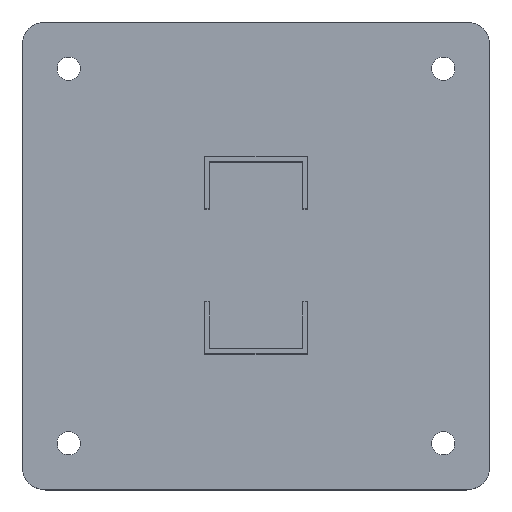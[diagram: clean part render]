
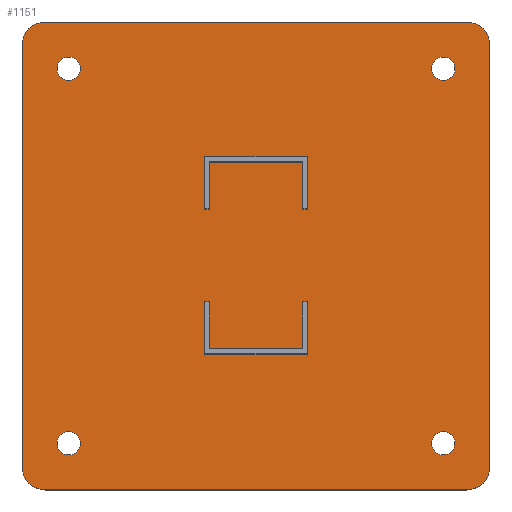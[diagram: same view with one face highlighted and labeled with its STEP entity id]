
A CAD part, top view. The second image highlights one B-rep face of the part: STEP entity #1151.
In plain terms, the highlighted planar face has unit normal (0, 0, 1).
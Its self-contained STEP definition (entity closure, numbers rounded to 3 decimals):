
#279=CARTESIAN_POINT('',(-14.244,59.231,4.0));
#280=VERTEX_POINT('',#279);
#287=CARTESIAN_POINT('',(25.756,59.231,4.0));
#288=VERTEX_POINT('',#287);
#289=CARTESIAN_POINT('',(25.756,59.231,4.0));
#290=DIRECTION('',(-1.0,0.0,0.0));
#291=VECTOR('',#290,40.0);
#292=LINE('',#289,#291);
#293=EDGE_CURVE('',#288,#280,#292,.T.);
#323=CARTESIAN_POINT('',(-14.244,39.231,4.0));
#324=VERTEX_POINT('',#323);
#331=CARTESIAN_POINT('',(-14.244,59.231,4.0));
#332=DIRECTION('',(0.0,-1.0,0.0));
#333=VECTOR('',#332,20.0);
#334=LINE('',#331,#333);
#335=EDGE_CURVE('',#280,#324,#334,.T.);
#354=CARTESIAN_POINT('',(-16.244,39.231,4.0));
#355=VERTEX_POINT('',#354);
#362=CARTESIAN_POINT('',(-14.244,39.231,4.0));
#363=DIRECTION('',(-1.0,0.0,0.0));
#364=VECTOR('',#363,2.);
#365=LINE('',#362,#364);
#366=EDGE_CURVE('',#324,#355,#365,.T.);
#385=CARTESIAN_POINT('',(-16.244,61.231,4.0));
#386=VERTEX_POINT('',#385);
#393=CARTESIAN_POINT('',(-16.244,39.231,4.0));
#394=DIRECTION('',(0.0,1.0,0.0));
#395=VECTOR('',#394,22.0);
#396=LINE('',#393,#395);
#397=EDGE_CURVE('',#355,#386,#396,.T.);
#416=CARTESIAN_POINT('',(27.756,61.231,4.0));
#417=VERTEX_POINT('',#416);
#424=CARTESIAN_POINT('',(-16.244,61.231,4.0));
#425=DIRECTION('',(1.0,0.0,0.0));
#426=VECTOR('',#425,44.0);
#427=LINE('',#424,#426);
#428=EDGE_CURVE('',#386,#417,#427,.T.);
#453=CARTESIAN_POINT('',(27.756,39.231,4.0));
#454=VERTEX_POINT('',#453);
#461=CARTESIAN_POINT('',(27.756,61.231,4.0));
#462=DIRECTION('',(0.0,-1.0,0.0));
#463=VECTOR('',#462,22.);
#464=LINE('',#461,#463);
#465=EDGE_CURVE('',#417,#454,#464,.T.);
#484=CARTESIAN_POINT('',(25.756,39.231,4.0));
#485=VERTEX_POINT('',#484);
#492=CARTESIAN_POINT('',(27.756,39.231,4.0));
#493=DIRECTION('',(-1.0,0.0,0.0));
#494=VECTOR('',#493,2.);
#495=LINE('',#492,#494);
#496=EDGE_CURVE('',#454,#485,#495,.T.);
#514=CARTESIAN_POINT('',(25.756,39.231,4.0));
#515=DIRECTION('',(0.0,1.0,0.0));
#516=VECTOR('',#515,20.0);
#517=LINE('',#514,#516);
#518=EDGE_CURVE('',#485,#288,#517,.T.);
#555=CARTESIAN_POINT('',(25.756,-0.769,4.0));
#556=VERTEX_POINT('',#555);
#563=CARTESIAN_POINT('',(25.756,-20.769,4.0));
#564=VERTEX_POINT('',#563);
#565=CARTESIAN_POINT('',(25.756,-20.769,4.0));
#566=DIRECTION('',(0.0,1.0,0.0));
#567=VECTOR('',#566,20.0);
#568=LINE('',#565,#567);
#569=EDGE_CURVE('',#564,#556,#568,.T.);
#593=CARTESIAN_POINT('',(27.756,-0.769,4.0));
#594=VERTEX_POINT('',#593);
#601=CARTESIAN_POINT('',(25.756,-0.769,4.0));
#602=DIRECTION('',(1.0,0.0,0.0));
#603=VECTOR('',#602,2.);
#604=LINE('',#601,#603);
#605=EDGE_CURVE('',#556,#594,#604,.T.);
#624=CARTESIAN_POINT('',(27.756,-22.769,4.0));
#625=VERTEX_POINT('',#624);
#632=CARTESIAN_POINT('',(27.756,-0.769,4.0));
#633=DIRECTION('',(0.0,-1.0,0.0));
#634=VECTOR('',#633,22.);
#635=LINE('',#632,#634);
#636=EDGE_CURVE('',#594,#625,#635,.T.);
#655=CARTESIAN_POINT('',(-16.244,-22.769,4.0));
#656=VERTEX_POINT('',#655);
#663=CARTESIAN_POINT('',(27.756,-22.769,4.0));
#664=DIRECTION('',(-1.0,0.0,0.0));
#665=VECTOR('',#664,44.);
#666=LINE('',#663,#665);
#667=EDGE_CURVE('',#625,#656,#666,.T.);
#692=CARTESIAN_POINT('',(-16.244,-0.769,4.0));
#693=VERTEX_POINT('',#692);
#700=CARTESIAN_POINT('',(-16.244,-22.769,4.0));
#701=DIRECTION('',(0.0,1.0,0.0));
#702=VECTOR('',#701,22.);
#703=LINE('',#700,#702);
#704=EDGE_CURVE('',#656,#693,#703,.T.);
#723=CARTESIAN_POINT('',(-14.244,-0.769,4.0));
#724=VERTEX_POINT('',#723);
#731=CARTESIAN_POINT('',(-16.244,-0.769,4.0));
#732=DIRECTION('',(1.0,0.0,0.0));
#733=VECTOR('',#732,2.);
#734=LINE('',#731,#733);
#735=EDGE_CURVE('',#693,#724,#734,.T.);
#754=CARTESIAN_POINT('',(-14.244,-20.769,4.0));
#755=VERTEX_POINT('',#754);
#762=CARTESIAN_POINT('',(-14.244,-0.769,4.0));
#763=DIRECTION('',(0.0,-1.0,0.0));
#764=VECTOR('',#763,20.);
#765=LINE('',#762,#764);
#766=EDGE_CURVE('',#724,#755,#765,.T.);
#784=CARTESIAN_POINT('',(-14.244,-20.769,4.0));
#785=DIRECTION('',(1.0,0.0,0.0));
#786=VECTOR('',#785,40.0);
#787=LINE('',#784,#786);
#788=EDGE_CURVE('',#755,#564,#787,.T.);
#853=CARTESIAN_POINT('',(90.756,-60.769,4.0));
#854=VERTEX_POINT('',#853);
#855=CARTESIAN_POINT('',(85.756,-60.769,4.));
#856=DIRECTION('',(0.0,0.0,-1.0));
#857=DIRECTION('',(1.0,0.0,0.0));
#858=AXIS2_PLACEMENT_3D('',#855,#856,#857);
#859=CIRCLE('',#858,5.0);
#860=EDGE_CURVE('',#854,#854,#859,.T.);
#902=CARTESIAN_POINT('',(90.756,99.231,4.0));
#903=VERTEX_POINT('',#902);
#904=CARTESIAN_POINT('',(85.756,99.231,4.));
#905=DIRECTION('',(0.0,0.0,-1.0));
#906=DIRECTION('',(1.0,0.0,0.0));
#907=AXIS2_PLACEMENT_3D('',#904,#905,#906);
#908=CIRCLE('',#907,5.0);
#909=EDGE_CURVE('',#903,#903,#908,.T.);
#951=CARTESIAN_POINT('',(-69.244,99.231,4.0));
#952=VERTEX_POINT('',#951);
#953=CARTESIAN_POINT('',(-74.244,99.231,4.));
#954=DIRECTION('',(0.0,0.0,-1.0));
#955=DIRECTION('',(1.0,0.0,0.0));
#956=AXIS2_PLACEMENT_3D('',#953,#954,#955);
#957=CIRCLE('',#956,5.0);
#958=EDGE_CURVE('',#952,#952,#957,.T.);
#1000=CARTESIAN_POINT('',(-69.244,-60.769,4.0));
#1001=VERTEX_POINT('',#1000);
#1002=CARTESIAN_POINT('',(-74.244,-60.769,4.));
#1003=DIRECTION('',(0.0,0.0,-1.0));
#1004=DIRECTION('',(1.0,0.0,0.0));
#1005=AXIS2_PLACEMENT_3D('',#1002,#1003,#1004);
#1006=CIRCLE('',#1005,5.0);
#1007=EDGE_CURVE('',#1001,#1001,#1006,.T.);
#1017=CARTESIAN_POINT('',(95.756,119.231,4.0));
#1018=VERTEX_POINT('',#1017);
#1019=CARTESIAN_POINT('',(105.756,109.231,4.0));
#1020=VERTEX_POINT('',#1019);
#1021=CARTESIAN_POINT('',(95.756,109.231,4.0));
#1022=DIRECTION('',(0.0,0.0,-1.));
#1023=DIRECTION('',(0.707,0.707,0.0));
#1024=AXIS2_PLACEMENT_3D('',#1021,#1022,#1023);
#1025=CIRCLE('',#1024,10.);
#1026=EDGE_CURVE('',#1018,#1020,#1025,.T.);
#1054=CARTESIAN_POINT('',(5.756,19.231,4.0));
#1055=DIRECTION('',(0.0,0.0,1.0));
#1056=DIRECTION('',(1.0,0.0,0.0));
#1057=AXIS2_PLACEMENT_3D('',#1054,#1055,#1056);
#1058=PLANE('',#1057);
#1059=ORIENTED_EDGE('',*,*,#1026,.F.);
#1060=CARTESIAN_POINT('',(-84.244,119.231,4.0));
#1061=VERTEX_POINT('',#1060);
#1062=CARTESIAN_POINT('',(-84.244,119.231,4.0));
#1063=DIRECTION('',(1.0,0.0,0.0));
#1064=VECTOR('',#1063,180.);
#1065=LINE('',#1062,#1064);
#1066=EDGE_CURVE('',#1061,#1018,#1065,.T.);
#1067=ORIENTED_EDGE('',*,*,#1066,.F.);
#1068=CARTESIAN_POINT('',(-94.244,109.231,4.0));
#1069=VERTEX_POINT('',#1068);
#1070=CARTESIAN_POINT('',(-84.244,109.231,4.0));
#1071=DIRECTION('',(0.0,0.0,-1.));
#1072=DIRECTION('',(-0.707,0.707,0.0));
#1073=AXIS2_PLACEMENT_3D('',#1070,#1071,#1072);
#1074=CIRCLE('',#1073,10.);
#1075=EDGE_CURVE('',#1069,#1061,#1074,.T.);
#1076=ORIENTED_EDGE('',*,*,#1075,.F.);
#1077=CARTESIAN_POINT('',(-94.244,-70.769,4.0));
#1078=VERTEX_POINT('',#1077);
#1079=CARTESIAN_POINT('',(-94.244,-70.769,4.0));
#1080=DIRECTION('',(0.0,1.0,0.0));
#1081=VECTOR('',#1080,180.0);
#1082=LINE('',#1079,#1081);
#1083=EDGE_CURVE('',#1078,#1069,#1082,.T.);
#1084=ORIENTED_EDGE('',*,*,#1083,.F.);
#1085=CARTESIAN_POINT('',(-84.244,-80.769,4.0));
#1086=VERTEX_POINT('',#1085);
#1087=CARTESIAN_POINT('',(-84.244,-70.769,4.0));
#1088=DIRECTION('',(0.0,0.0,-1.));
#1089=DIRECTION('',(-0.707,-0.707,0.0));
#1090=AXIS2_PLACEMENT_3D('',#1087,#1088,#1089);
#1091=CIRCLE('',#1090,10.);
#1092=EDGE_CURVE('',#1086,#1078,#1091,.T.);
#1093=ORIENTED_EDGE('',*,*,#1092,.F.);
#1094=CARTESIAN_POINT('',(95.756,-80.769,4.0));
#1095=VERTEX_POINT('',#1094);
#1096=CARTESIAN_POINT('',(95.756,-80.769,4.0));
#1097=DIRECTION('',(-1.0,0.0,0.0));
#1098=VECTOR('',#1097,180.0);
#1099=LINE('',#1096,#1098);
#1100=EDGE_CURVE('',#1095,#1086,#1099,.T.);
#1101=ORIENTED_EDGE('',*,*,#1100,.F.);
#1102=CARTESIAN_POINT('',(105.756,-70.769,4.0));
#1103=VERTEX_POINT('',#1102);
#1104=CARTESIAN_POINT('',(95.756,-70.769,4.0));
#1105=DIRECTION('',(0.0,0.0,-1.0));
#1106=DIRECTION('',(0.707,-0.707,0.0));
#1107=AXIS2_PLACEMENT_3D('',#1104,#1105,#1106);
#1108=CIRCLE('',#1107,10.0);
#1109=EDGE_CURVE('',#1103,#1095,#1108,.T.);
#1110=ORIENTED_EDGE('',*,*,#1109,.F.);
#1111=CARTESIAN_POINT('',(105.756,109.231,4.0));
#1112=DIRECTION('',(0.0,-1.0,0.0));
#1113=VECTOR('',#1112,180.);
#1114=LINE('',#1111,#1113);
#1115=EDGE_CURVE('',#1020,#1103,#1114,.T.);
#1116=ORIENTED_EDGE('',*,*,#1115,.F.);
#1117=EDGE_LOOP('',(#1059,#1067,#1076,#1084,#1093,#1101,#1110,#1116));
#1118=FACE_OUTER_BOUND('',#1117,.T.);
#1119=ORIENTED_EDGE('',*,*,#293,.T.);
#1120=ORIENTED_EDGE('',*,*,#335,.T.);
#1121=ORIENTED_EDGE('',*,*,#366,.T.);
#1122=ORIENTED_EDGE('',*,*,#397,.T.);
#1123=ORIENTED_EDGE('',*,*,#428,.T.);
#1124=ORIENTED_EDGE('',*,*,#465,.T.);
#1125=ORIENTED_EDGE('',*,*,#496,.T.);
#1126=ORIENTED_EDGE('',*,*,#518,.T.);
#1127=EDGE_LOOP('',(#1119,#1120,#1121,#1122,#1123,#1124,#1125,#1126));
#1128=FACE_BOUND('',#1127,.T.);
#1129=ORIENTED_EDGE('',*,*,#569,.T.);
#1130=ORIENTED_EDGE('',*,*,#605,.T.);
#1131=ORIENTED_EDGE('',*,*,#636,.T.);
#1132=ORIENTED_EDGE('',*,*,#667,.T.);
#1133=ORIENTED_EDGE('',*,*,#704,.T.);
#1134=ORIENTED_EDGE('',*,*,#735,.T.);
#1135=ORIENTED_EDGE('',*,*,#766,.T.);
#1136=ORIENTED_EDGE('',*,*,#788,.T.);
#1137=EDGE_LOOP('',(#1129,#1130,#1131,#1132,#1133,#1134,#1135,#1136));
#1138=FACE_BOUND('',#1137,.T.);
#1139=ORIENTED_EDGE('',*,*,#860,.T.);
#1140=EDGE_LOOP('',(#1139));
#1141=FACE_BOUND('',#1140,.T.);
#1142=ORIENTED_EDGE('',*,*,#909,.T.);
#1143=EDGE_LOOP('',(#1142));
#1144=FACE_BOUND('',#1143,.T.);
#1145=ORIENTED_EDGE('',*,*,#958,.T.);
#1146=EDGE_LOOP('',(#1145));
#1147=FACE_BOUND('',#1146,.T.);
#1148=ORIENTED_EDGE('',*,*,#1007,.T.);
#1149=EDGE_LOOP('',(#1148));
#1150=FACE_BOUND('',#1149,.T.);
#1151=ADVANCED_FACE('',(#1118,#1128,#1138,#1141,#1144,#1147,#1150),#1058,.T.);
